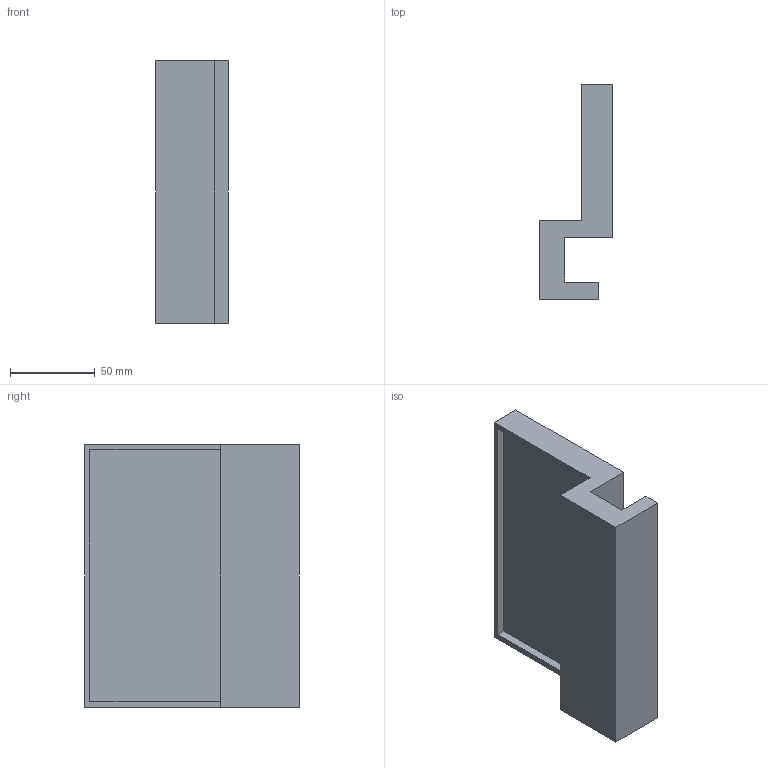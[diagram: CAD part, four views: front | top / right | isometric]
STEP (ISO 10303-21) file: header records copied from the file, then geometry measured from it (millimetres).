
FILE_DESCRIPTION(/* description */ (''),/* implementation_level */ '2;1');
FILE_NAME(/* name */ 'C:\Users\Anthony\Documents\Parts\Phone Shelf.stp',/* time_stamp */ '2015-04-07T10:51:16-04:00',/* author */ ('Anthony'),/* organization */ (''),/* preprocessor_version */ 'ST-DEVELOPER v15.6',/* originating_system */ 'Autodesk Inventor 2015',/* authorisation */ '');
FILE_SCHEMA (('AUTOMOTIVE_DESIGN { 1 0 10303 214 3 1 1 }'));
Length unit declared in the file: millimetre
Products named in the file (1): Phone Shelf
Bounding box: 43 x 126.5 x 155 mm (x, y, z)
Volume: 332850.2 mm3; surface area: 65483.9 mm2
Topology: 1 solids, 1 shells, 18 faces, 54 edges, 36 vertices
Faces by surface type: plane 18
Entity records: 626 total; most frequent: CARTESIAN_POINT 109, ORIENTED_EDGE 108, DIRECTION 92, LINE 54, VECTOR 54, EDGE_CURVE 54, VERTEX_POINT 36, AXIS2_PLACEMENT_3D 19
